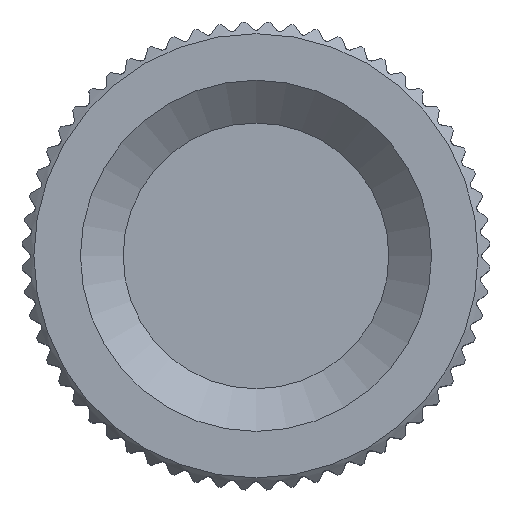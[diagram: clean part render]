
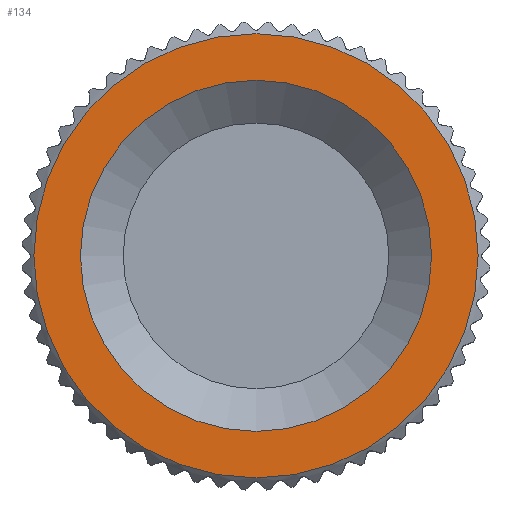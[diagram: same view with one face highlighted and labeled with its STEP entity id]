
A CAD part, top view. The second image highlights one B-rep face of the part: STEP entity #134.
In plain terms, the highlighted planar face has unit normal (0, 0, 1).
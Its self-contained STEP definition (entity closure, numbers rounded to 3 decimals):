
#58=CARTESIAN_POINT('',(7.35,0.,14.6));
#59=VERTEX_POINT('',#58);
#76=CARTESIAN_POINT('',(0.,0.,14.6));
#77=DIRECTION('',(1.,-0.,-0.));
#78=DIRECTION('',(0.,-0.,1.));
#79=AXIS2_PLACEMENT_3D('',#76,#78,#77);
#80=CIRCLE('',#79,7.35);
#81=EDGE_CURVE('',#59,#59,#80,.T.);
#115=CARTESIAN_POINT('',(0.,0.,14.6));
#116=DIRECTION('',(1.,0.,0.));
#117=DIRECTION('',(0.,0.,-1.));
#118=AXIS2_PLACEMENT_3D('',#115,#117,#116);
#119=PLANE('',#118);
#120=CARTESIAN_POINT('',(9.3,0.,14.6));
#121=VERTEX_POINT('',#120);
#122=CARTESIAN_POINT('',(0.,0.,14.6));
#123=DIRECTION('',(1.,0.,0.));
#124=DIRECTION('',(0.,0.,-1.));
#125=AXIS2_PLACEMENT_3D('',#122,#124,#123);
#126=CIRCLE('',#125,9.3);
#127=EDGE_CURVE('',#121,#121,#126,.T.);
#128=ORIENTED_EDGE('E19',*,*,#127,.T.);
#129=EDGE_LOOP('',(#128));
#130=FACE_OUTER_BOUND('',#129,.F.);
#131=ORIENTED_EDGE('',*,*,#81,.T.);
#132=EDGE_LOOP('',(#131));
#133=FACE_BOUND('',#132,.F.);
#134=ADVANCED_FACE('F5',(#130,#133),#119,.F.);
